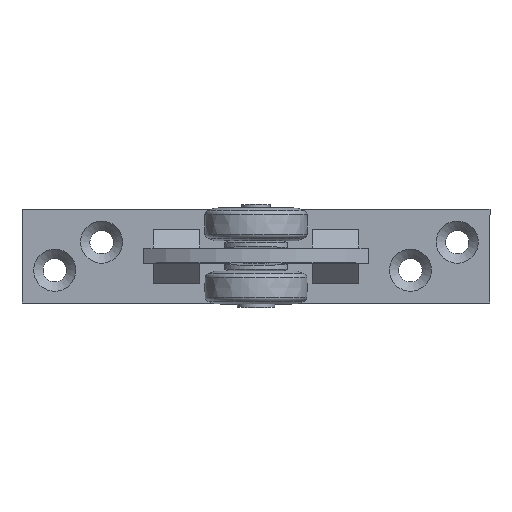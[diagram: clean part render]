
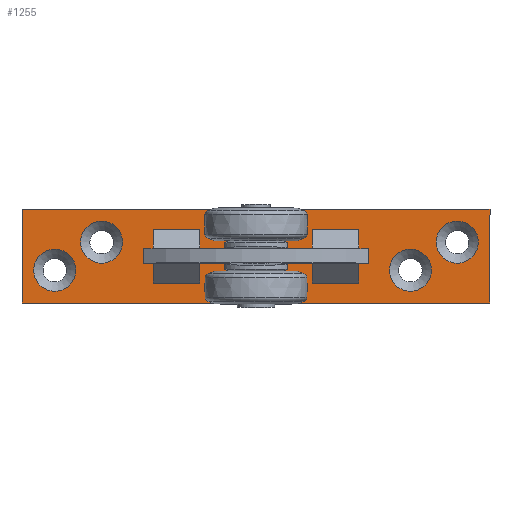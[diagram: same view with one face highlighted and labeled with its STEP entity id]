
A CAD part, top view. The second image highlights one B-rep face of the part: STEP entity #1255.
In plain terms, the highlighted planar face has unit normal (0, 0, 1).
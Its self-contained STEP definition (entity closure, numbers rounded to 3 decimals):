
#101=FACE_BOUND('',#371,.T.);
#102=FACE_BOUND('',#372,.T.);
#103=FACE_BOUND('',#373,.T.);
#104=FACE_BOUND('',#374,.T.);
#151=CIRCLE('',#1364,4.5);
#154=CIRCLE('',#1369,4.5);
#157=CIRCLE('',#1374,4.5);
#160=CIRCLE('',#1379,4.5);
#258=FACE_OUTER_BOUND('',#370,.T.);
#370=EDGE_LOOP('',(#1005,#1006,#1007,#1008));
#371=EDGE_LOOP('',(#1009));
#372=EDGE_LOOP('',(#1010));
#373=EDGE_LOOP('',(#1011));
#374=EDGE_LOOP('',(#1012));
#448=LINE('',#2057,#538);
#452=LINE('',#2064,#542);
#455=LINE('',#2070,#545);
#457=LINE('',#2073,#547);
#538=VECTOR('',#1665,20.);
#542=VECTOR('',#1671,100.);
#545=VECTOR('',#1676,20.);
#547=VECTOR('',#1680,100.);
#639=VERTEX_POINT('',#2019);
#642=VERTEX_POINT('',#2027);
#645=VERTEX_POINT('',#2035);
#648=VERTEX_POINT('',#2043);
#653=VERTEX_POINT('',#2054);
#654=VERTEX_POINT('',#2056);
#656=VERTEX_POINT('',#2062);
#658=VERTEX_POINT('',#2068);
#763=EDGE_CURVE('',#639,#639,#151,.T.);
#766=EDGE_CURVE('',#642,#642,#154,.T.);
#769=EDGE_CURVE('',#645,#645,#157,.T.);
#772=EDGE_CURVE('',#648,#648,#160,.T.);
#777=EDGE_CURVE('',#653,#654,#448,.T.);
#781=EDGE_CURVE('',#656,#653,#452,.T.);
#784=EDGE_CURVE('',#658,#656,#455,.T.);
#786=EDGE_CURVE('',#654,#658,#457,.T.);
#1005=ORIENTED_EDGE('',*,*,#786,.F.);
#1006=ORIENTED_EDGE('',*,*,#777,.F.);
#1007=ORIENTED_EDGE('',*,*,#781,.F.);
#1008=ORIENTED_EDGE('',*,*,#784,.F.);
#1009=ORIENTED_EDGE('',*,*,#763,.T.);
#1010=ORIENTED_EDGE('',*,*,#766,.T.);
#1011=ORIENTED_EDGE('',*,*,#769,.T.);
#1012=ORIENTED_EDGE('',*,*,#772,.T.);
#1178=PLANE('',#1387);
#1255=ADVANCED_FACE('',(#258,#101,#102,#103,#104),#1178,.T.);
#1364=AXIS2_PLACEMENT_3D('',#2020,#1623,#1624);
#1369=AXIS2_PLACEMENT_3D('',#2028,#1633,#1634);
#1374=AXIS2_PLACEMENT_3D('',#2036,#1643,#1644);
#1379=AXIS2_PLACEMENT_3D('',#2044,#1653,#1654);
#1387=AXIS2_PLACEMENT_3D('',#2074,#1681,#1682);
#1623=DIRECTION('center_axis',(0.,0.,-1.));
#1624=DIRECTION('ref_axis',(1.,0.,0.));
#1633=DIRECTION('center_axis',(0.,0.,-1.));
#1634=DIRECTION('ref_axis',(1.,0.,0.));
#1643=DIRECTION('center_axis',(0.,0.,-1.));
#1644=DIRECTION('ref_axis',(1.,0.,0.));
#1653=DIRECTION('center_axis',(0.,0.,-1.));
#1654=DIRECTION('ref_axis',(1.,0.,0.));
#1665=DIRECTION('',(0.,1.,0.));
#1671=DIRECTION('',(-1.,0.,0.));
#1676=DIRECTION('',(0.,-1.,0.));
#1680=DIRECTION('',(1.,0.,0.));
#1681=DIRECTION('center_axis',(0.,0.,1.));
#1682=DIRECTION('ref_axis',(1.,0.,0.));
#2019=CARTESIAN_POINT('',(47.5,3.,0.));
#2020=CARTESIAN_POINT('Origin',(43.,3.,0.));
#2027=CARTESIAN_POINT('',(37.5,-3.,0.));
#2028=CARTESIAN_POINT('Origin',(33.,-3.,0.));
#2035=CARTESIAN_POINT('',(-28.5,3.,0.));
#2036=CARTESIAN_POINT('Origin',(-33.,3.,0.));
#2043=CARTESIAN_POINT('',(-38.5,-3.,0.));
#2044=CARTESIAN_POINT('Origin',(-43.,-3.,0.));
#2054=CARTESIAN_POINT('',(-50.,-10.,0.));
#2056=CARTESIAN_POINT('',(-50.,10.,0.));
#2057=CARTESIAN_POINT('',(-50.,-10.,0.));
#2062=CARTESIAN_POINT('',(50.,-10.,0.));
#2064=CARTESIAN_POINT('',(50.,-10.,0.));
#2068=CARTESIAN_POINT('',(50.,10.,0.));
#2070=CARTESIAN_POINT('',(50.,10.,0.));
#2073=CARTESIAN_POINT('',(-50.,10.,0.));
#2074=CARTESIAN_POINT('Origin',(0.,0.,
0.));
